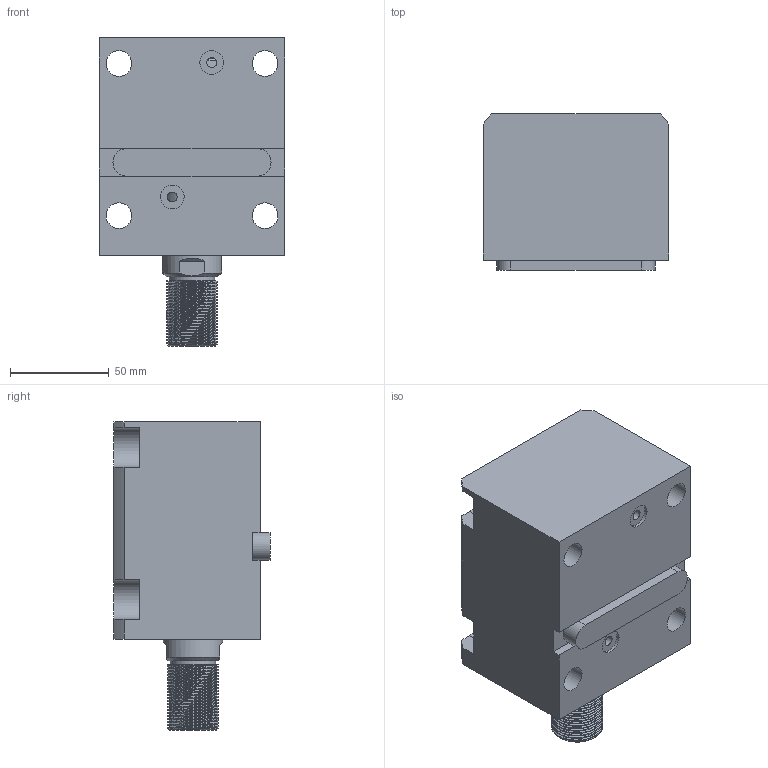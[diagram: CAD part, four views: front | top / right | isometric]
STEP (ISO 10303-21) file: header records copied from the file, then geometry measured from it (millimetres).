
FILE_DESCRIPTION(/* description */ (''),/* implementation_level */ '2;1');
FILE_NAME(/* name */ 'CHTB-LAM50-50W.stp',/* time_stamp */ '2022-04-29T18:03:42+08:00',/* author */ (''),/* organization */ (''),/* preprocessor_version */ 'ST-DEVELOPER v16.7',/* originating_system */ 'SIEMENS PLM Software NX 12.0',/* authorisation */ '');
FILE_SCHEMA (('AUTOMOTIVE_DESIGN { 1 0 10303 214 3 1 1 1 }'));
Length unit declared in the file: millimetre
Products named in the file (1): CHTB-LAM50-50W
Bounding box: 94 x 79 x 156 mm (x, y, z)
Volume: 674019.1 mm3; surface area: 115376.9 mm2
Topology: 3 solids, 3 shells, 463 faces, 1367 edges, 951 vertices
Faces by surface type: plane 314, extrusion 82, cylinder 40, torus 11, bspline 10, cone 6
Full cylindrical faces by diameter (mm): 4 x2, 5 x2, 12 x2, 13 x4, 23 x1, 30 x2, 39 x1, 46 x1, 50 x5, 59 x1
Entity records: 24891 total; most frequent: CARTESIAN_POINT 10882, ORIENTED_EDGE 2632, DIRECTION 1900, EDGE_CURVE 1316, VECTOR 970, VERTEX_POINT 943, LINE 888, EDGE_LOOP 559
